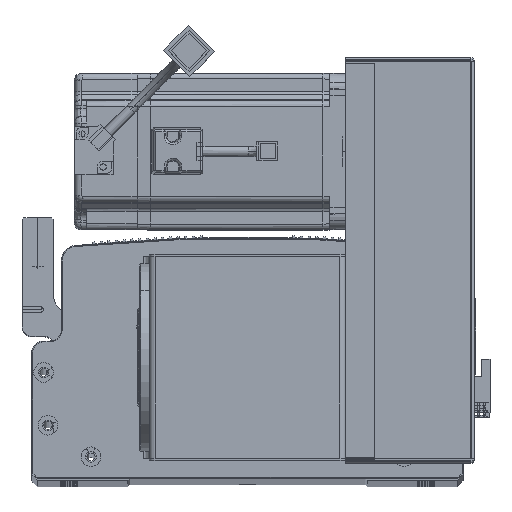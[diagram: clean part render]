
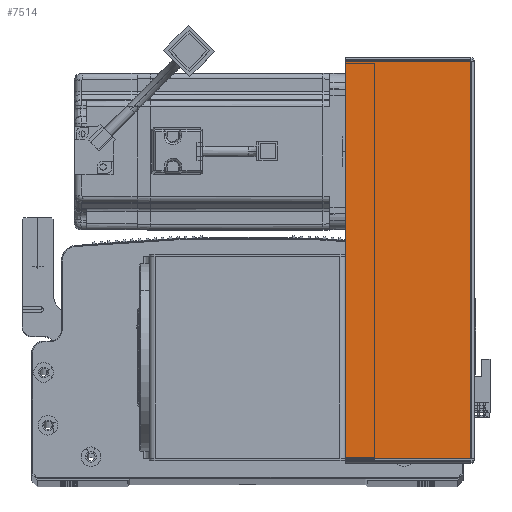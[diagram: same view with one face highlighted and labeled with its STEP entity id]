
A CAD part, top view. The second image highlights one B-rep face of the part: STEP entity #7514.
In plain terms, the highlighted planar face has unit normal (0, 0, 1) as drawn and (0, -1, 0) by its records, which use the part's own axes.
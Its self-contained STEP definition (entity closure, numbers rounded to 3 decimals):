
#2695 = DIRECTION ( 'NONE',  ( 0., 0., 1. ) ) ;
#3398 = CARTESIAN_POINT ( 'NONE',  ( 0.737, -1.5, -203.293 ) ) ;
#3607 = DIRECTION ( 'NONE',  ( 1., 0., 0. ) ) ;
#6323 = EDGE_CURVE ( 'NONE', #79056, #49085, #12087, .T. ) ;
#6596 = VECTOR ( 'NONE', #2695, 1000. ) ;
#7514 = ADVANCED_FACE ( 'NONE', ( #43754 ), #31097, .F. ) ;
#9128 = EDGE_CURVE ( 'NONE', #65490, #49085, #43840, .T. ) ;
#12087 = LINE ( 'NONE', #56532, #84765 ) ;
#14745 = LINE ( 'NONE', #87880, #36818 ) ;
#23236 = CARTESIAN_POINT ( 'NONE',  ( 0., -1.5, -0.707 ) ) ;
#24102 = LINE ( 'NONE', #65402, #6596 ) ;
#24753 = CARTESIAN_POINT ( 'NONE',  ( 64.5, -1.5, -0.707 ) ) ;
#26791 = AXIS2_PLACEMENT_3D ( 'NONE', #87417, #37890, #60258 ) ;
#31097 = PLANE ( 'NONE',  #26791 ) ;
#36818 = VECTOR ( 'NONE', #3607, 1000. ) ;
#37890 = DIRECTION ( 'NONE',  ( 0., 1., 0. ) ) ;
#43665 = ORIENTED_EDGE ( 'NONE', *, *, #6323, .T. ) ;
#43754 = FACE_OUTER_BOUND ( 'NONE', #91030, .T. ) ;
#43840 = LINE ( 'NONE', #23236, #78986 ) ;
#44525 = DIRECTION ( 'NONE',  ( 1., 0., 0. ) ) ;
#48901 = DIRECTION ( 'NONE',  ( 0., 0., 1. ) ) ;
#49085 = VERTEX_POINT ( 'NONE', #24753 ) ;
#52520 = ORIENTED_EDGE ( 'NONE', *, *, #64345, .T. ) ;
#56532 = CARTESIAN_POINT ( 'NONE',  ( 64.5, -1.5, 0. ) ) ;
#57348 = ORIENTED_EDGE ( 'NONE', *, *, #77307, .F. ) ;
#59750 = CARTESIAN_POINT ( 'NONE',  ( 64.5, -1.5, -203.293 ) ) ;
#60258 = DIRECTION ( 'NONE',  ( -1., 0., 0. ) ) ;
#60282 = VERTEX_POINT ( 'NONE', #3398 ) ;
#64345 = EDGE_CURVE ( 'NONE', #60282, #79056, #14745, .T. ) ;
#65402 = CARTESIAN_POINT ( 'NONE',  ( 0.737, -1.5, 0. ) ) ;
#65490 = VERTEX_POINT ( 'NONE', #87357 ) ;
#72719 = ORIENTED_EDGE ( 'NONE', *, *, #9128, .F. ) ;
#77307 = EDGE_CURVE ( 'NONE', #60282, #65490, #24102, .T. ) ;
#78986 = VECTOR ( 'NONE', #44525, 1000. ) ;
#79056 = VERTEX_POINT ( 'NONE', #59750 ) ;
#84765 = VECTOR ( 'NONE', #48901, 1000. ) ;
#87357 = CARTESIAN_POINT ( 'NONE',  ( 0.737, -1.5, -0.707 ) ) ;
#87417 = CARTESIAN_POINT ( 'NONE',  ( 0., -1.5, 0. ) ) ;
#87880 = CARTESIAN_POINT ( 'NONE',  ( 0., -1.5, -203.293 ) ) ;
#91030 = EDGE_LOOP ( 'NONE', ( #57348, #52520, #43665, #72719 ) ) ;
